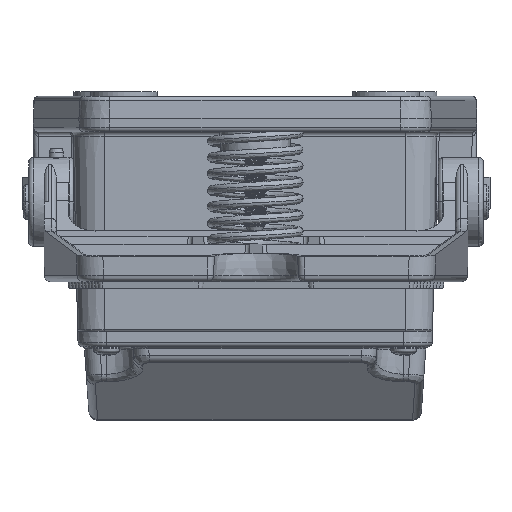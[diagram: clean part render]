
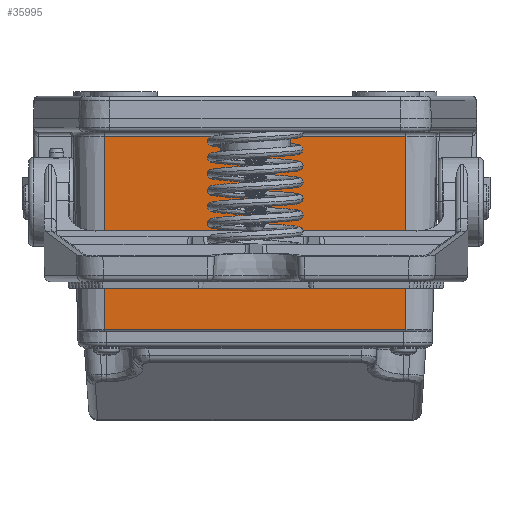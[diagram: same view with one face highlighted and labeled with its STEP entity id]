
A CAD part, front view. The second image highlights one B-rep face of the part: STEP entity #35995.
In plain terms, the highlighted planar face has unit normal (0, -1, -0.022).
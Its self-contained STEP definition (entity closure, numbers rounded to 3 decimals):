
#2936=DIRECTION('',(0.,-0.022,1.));
#2937=VECTOR('',#2936,43.544);
#2938=CARTESIAN_POINT('',(18.55,97.989,-52.798));
#2939=LINE('',#2938,#2937);
#2940=DIRECTION('',(-1.,0.,0.));
#2941=VECTOR('',#2940,68.);
#2942=CARTESIAN_POINT('',(86.55,97.022,-9.264));
#2943=LINE('',#2942,#2941);
#2967=DIRECTION('',(0.,-0.022,1.));
#2968=VECTOR('',#2967,43.544);
#2969=CARTESIAN_POINT('',(86.55,97.989,-52.798));
#2970=LINE('',#2969,#2968);
#25654=DIRECTION('',(1.,0.,0.));
#25655=VECTOR('',#25654,68.);
#25656=CARTESIAN_POINT('',(18.55,97.989,
-52.798));
#25657=LINE('',#25656,#25655);
#27559=CARTESIAN_POINT('',(18.55,97.022,
-9.264));
#27560=VERTEX_POINT('',#27559);
#27561=CARTESIAN_POINT('',(18.55,97.989,
-52.798));
#27562=VERTEX_POINT('',#27561);
#27563=CARTESIAN_POINT('',(86.55,97.022,-9.264));
#27564=VERTEX_POINT('',#27563);
#27569=CARTESIAN_POINT('',(86.55,97.989,
-52.798));
#27570=VERTEX_POINT('',#27569);
#35981=CARTESIAN_POINT('',(52.55,97.505,
-31.031));
#35982=DIRECTION('',(0.,1.,0.022));
#35983=DIRECTION('',(1.,0.,0.));
#35984=AXIS2_PLACEMENT_3D('',#35981,#35982,#35983);
#35985=PLANE('',#35984);
#35987=ORIENTED_EDGE('',*,*,#35986,.F.);
#35989=ORIENTED_EDGE('',*,*,#35988,.F.);
#35991=ORIENTED_EDGE('',*,*,#35990,.F.);
#35992=ORIENTED_EDGE('',*,*,#35972,.T.);
#35993=EDGE_LOOP('',(#35987,#35989,#35991,#35992));
#35994=FACE_OUTER_BOUND('',#35993,.F.);
#35995=ADVANCED_FACE('',(#35994),#35985,.F.);
#35972=EDGE_CURVE('',#27562,#27560,#2939,.T.);
#35986=EDGE_CURVE('',#27564,#27560,#2943,.T.);
#35988=EDGE_CURVE('',#27570,#27564,#2970,.T.);
#35990=EDGE_CURVE('',#27562,#27570,#25657,.T.);
